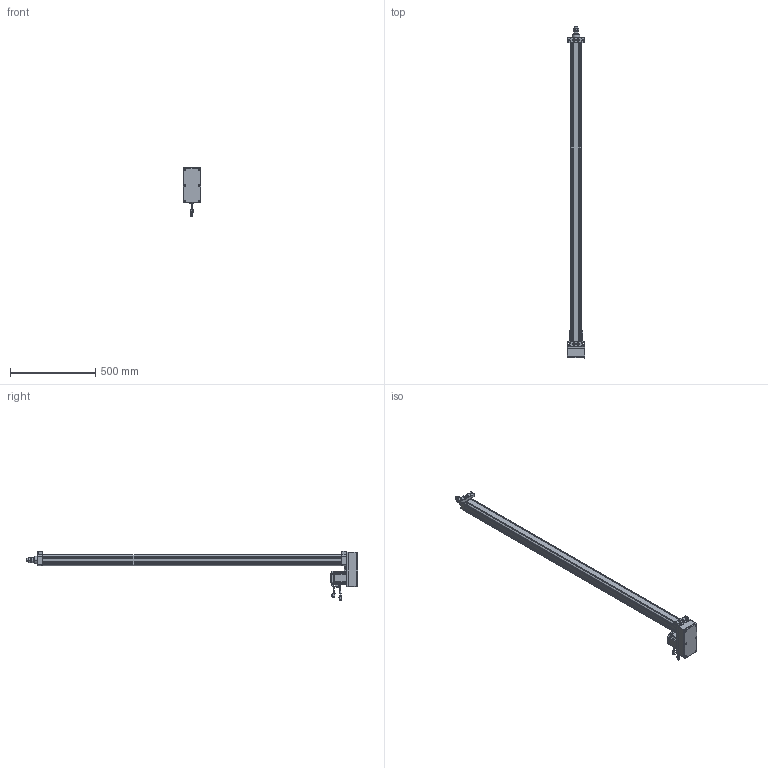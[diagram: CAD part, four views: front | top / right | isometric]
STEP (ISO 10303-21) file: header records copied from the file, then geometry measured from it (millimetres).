
FILE_DESCRIPTION((''),'2;1');
FILE_NAME('HE50-D-100-X1_ASM','2020-05-08T',('ASUS20200'),(''),'CREO PARAMETRIC BY PTC INC, 2014190','CREO PARAMETRIC BY PTC INC, 2014190','');
FILE_SCHEMA(('CONFIG_CONTROL_DESIGN'));
Products named in the file (32): HE50-D-P-001-X1; HE50-D-P-002-X1; HE50-D-P-003-X1; 6301ZZ; LGLM-M8-22; SLM-01; YZ-M6X1; HE50-P-010-X1-400W; _MHMF082L1A2; _CABLE_MOTOR_BOTTOM_05; _CABLE_MOTOR_TOP_05; _MOTOR_CONNECTOR_2; _CABLE_BRAKE_BOTTOM_05; _CABLE_BRAKE_TOP_05; _MHMF_CONNECTOR_9_PIN_A6; MHMF082L1A2M2_1_ASM; TD-6; M6X25; LM-M6X1; JX6X6X20; M6X25-DS; LM-M6-15; HE50-P-012-X1; HE50-P-013-X1; M6X60; HE50-P-015-X1; HE50-P-016-X1; M8X25; HE50-D-P-005-X1; HE50-D-P-004-X1; HE50-D-P-008-X1; HE50-D-100-X1_ASM
Assembly tree (56 placements, depth 3):
  HE50-D-100-X1_ASM
    HE50-D-P-001-X1
    HE50-D-P-002-X1
    HE50-D-P-003-X1
    6301ZZ
    LGLM-M8-22  x8
    SLM-01
    YZ-M6X1
    HE50-P-010-X1-400W
    MHMF082L1A2M2_1_ASM
      _MHMF082L1A2
      _CABLE_MOTOR_BOTTOM_05
      _CABLE_MOTOR_TOP_05
      _MOTOR_CONNECTOR_2
      _CABLE_BRAKE_BOTTOM_05
      _CABLE_BRAKE_TOP_05
      _MHMF_CONNECTOR_9_PIN_A6
    TD-6  x4
    M6X25  x4
    LM-M6X1  x5
    JX6X6X20
    M6X25-DS
    LM-M6-15
    HE50-P-012-X1
    HE50-P-013-X1
    M6X60  x6
    HE50-P-015-X1
    HE50-P-016-X1
    M8X25  x4
    HE50-D-P-005-X1
    HE50-D-P-004-X1
    HE50-D-P-008-X1
Bounding box: 105 x 1948.5 x 290.65 mm (x, y, z)
Volume: 4537165.4 mm3; surface area: 1379437 mm2
Topology: 55 solids, 89 shells, 3014 faces, 7229 edges, 4484 vertices
Faces by surface type: plane 1317, cylinder 811, cone 689, torus 154, sphere 42, bspline 1
Entity records: 72010 total; most frequent: CARTESIAN_POINT 13375, DIRECTION 12883, ORIENTED_EDGE 11460, EDGE_CURVE 5791, AXIS2_PLACEMENT_3D 4789, VERTEX_POINT 3625, VECTOR 3305, LINE 3305
